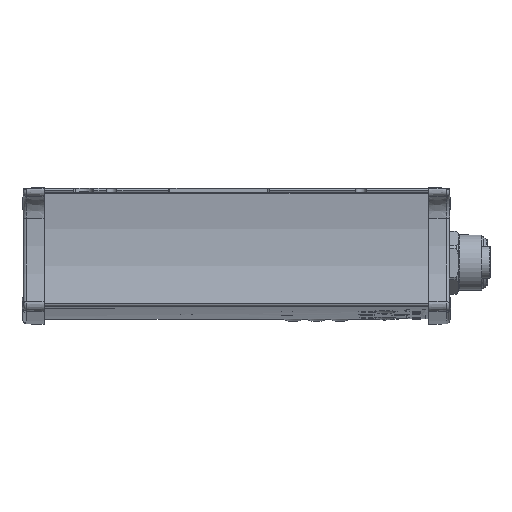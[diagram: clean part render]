
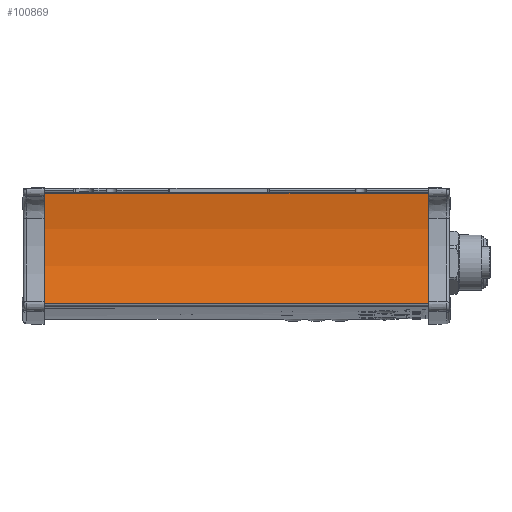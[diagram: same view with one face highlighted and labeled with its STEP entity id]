
A CAD part, left-side view. The second image highlights one B-rep face of the part: STEP entity #100869.
In plain terms, the highlighted cylindrical face has radius 109.9 mm (diameter 219.8 mm), a partial arc.
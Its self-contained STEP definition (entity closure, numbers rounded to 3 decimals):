
#1814 = VERTEX_POINT ( 'NONE', #49781 ) ;
#9638 = DIRECTION ( 'NONE',  ( 0., 0., 1. ) ) ;
#9705 = CARTESIAN_POINT ( 'NONE',  ( -81.929, -1., -49.24 ) ) ;
#15522 = CARTESIAN_POINT ( 'NONE',  ( -79.662, -175., -1.548 ) ) ;
#19451 = VERTEX_POINT ( 'NONE', #121335 ) ;
#25120 = CARTESIAN_POINT ( 'NONE',  ( -187.95, -175., -20.3 ) ) ;
#25985 = EDGE_CURVE ( 'NONE', #139073, #1814, #88317, .T. ) ;
#27961 = ORIENTED_EDGE ( 'NONE', *, *, #25985, .F. ) ;
#33340 = CARTESIAN_POINT ( 'NONE',  ( -79.662, -175., -1.548 ) ) ;
#37826 = EDGE_CURVE ( 'NONE', #139073, #19451, #99233, .T. ) ;
#42995 = AXIS2_PLACEMENT_3D ( 'NONE', #115574, #113483, #104217 ) ;
#45368 = DIRECTION ( 'NONE',  ( 0., 1., 0. ) ) ;
#46166 = DIRECTION ( 'NONE',  ( 0., 1., 0. ) ) ;
#46611 = ORIENTED_EDGE ( 'NONE', *, *, #112615, .T. ) ;
#46768 = LINE ( 'NONE', #121922, #97007 ) ;
#49781 = CARTESIAN_POINT ( 'NONE',  ( -81.929, -175., -49.24 ) ) ;
#73147 = AXIS2_PLACEMENT_3D ( 'NONE', #96230, #129614, #9638 ) ;
#73955 = ORIENTED_EDGE ( 'NONE', *, *, #37826, .T. ) ;
#81939 = VERTEX_POINT ( 'NONE', #9705 ) ;
#86854 = EDGE_CURVE ( 'NONE', #1814, #81939, #46768, .T. ) ;
#86862 = CYLINDRICAL_SURFACE ( 'NONE', #138422, 109.9 ) ;
#87554 = FACE_OUTER_BOUND ( 'NONE', #91120, .T. ) ;
#88317 = CIRCLE ( 'NONE', #42995, 109.9 ) ;
#91120 = EDGE_LOOP ( 'NONE', ( #46611, #98596, #27961, #73955 ) ) ;
#91274 = CIRCLE ( 'NONE', #73147, 109.9 ) ;
#96230 = CARTESIAN_POINT ( 'NONE',  ( -187.95, -1., -20.3 ) ) ;
#97007 = VECTOR ( 'NONE', #45368, 1000. ) ;
#98584 = VECTOR ( 'NONE', #46166, 1000. ) ;
#98596 = ORIENTED_EDGE ( 'NONE', *, *, #86854, .F. ) ;
#99233 = LINE ( 'NONE', #33340, #98584 ) ;
#99570 = DIRECTION ( 'NONE',  ( 0., 1., 0. ) ) ;
#100869 = ADVANCED_FACE ( 'NONE', ( #87554 ), #86862, .F. ) ;
#104217 = DIRECTION ( 'NONE',  ( 0., 0., 1. ) ) ;
#110264 = DIRECTION ( 'NONE',  ( 0., 0., -1. ) ) ;
#112615 = EDGE_CURVE ( 'NONE', #19451, #81939, #91274, .T. ) ;
#113483 = DIRECTION ( 'NONE',  ( 0., 1., 0. ) ) ;
#115574 = CARTESIAN_POINT ( 'NONE',  ( -187.95, -175., -20.3 ) ) ;
#121335 = CARTESIAN_POINT ( 'NONE',  ( -79.662, -1., -1.548 ) ) ;
#121922 = CARTESIAN_POINT ( 'NONE',  ( -81.929, -175., -49.24 ) ) ;
#129614 = DIRECTION ( 'NONE',  ( 0., 1., 0. ) ) ;
#138422 = AXIS2_PLACEMENT_3D ( 'NONE', #25120, #99570, #110264 ) ;
#139073 = VERTEX_POINT ( 'NONE', #15522 ) ;
